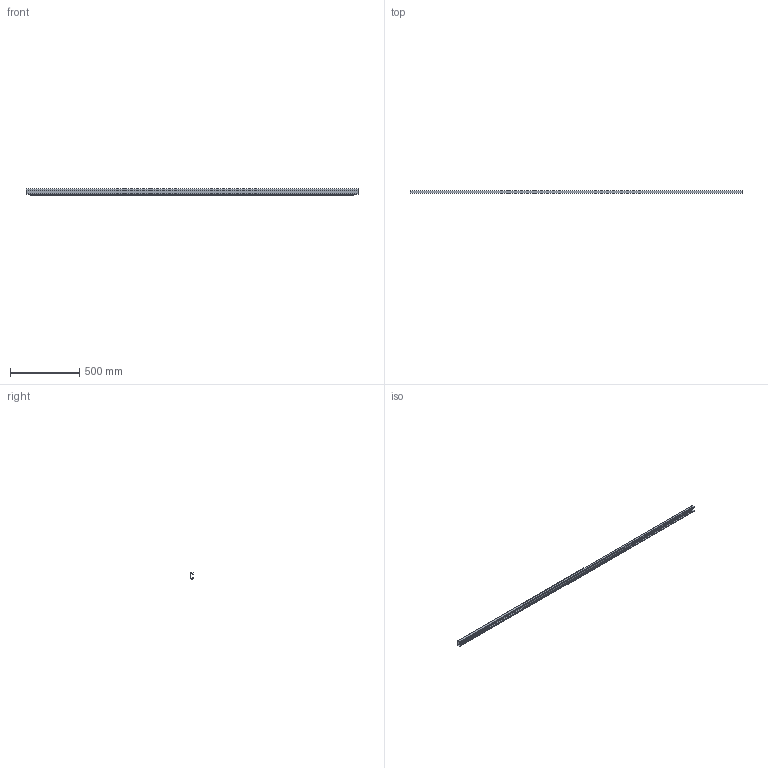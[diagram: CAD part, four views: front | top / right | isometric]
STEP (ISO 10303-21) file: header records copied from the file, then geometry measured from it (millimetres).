
FILE_DESCRIPTION( ( '' ), '1' );
FILE_NAME( 'D:/1.AUTOCAD EXPORT/Group 10/sheet_10_1/Remaining/9995123.stp', '2013-11-08T11:16:40', ( '' ), ( '' ), ' ', ' ', ' ' );
FILE_SCHEMA( ( 'CONFIG_CONTROL_DESIGN' ) );
Length unit declared in the file: millimetre
Products named in the file (1): 1
Bounding box: 2400 x 21.1 x 46 mm (x, y, z)
Volume: 462665.9 mm3; surface area: 458879.4 mm2
Topology: 1 solids, 1 shells, 39 faces, 108 edges, 72 vertices
Faces by surface type: plane 39
Entity records: 1266 total; most frequent: CARTESIAN_POINT 220, ORIENTED_EDGE 216, DIRECTION 188, EDGE_CURVE 108, LINE 108, VECTOR 108, VERTEX_POINT 72, AXIS2_PLACEMENT_3D 40
